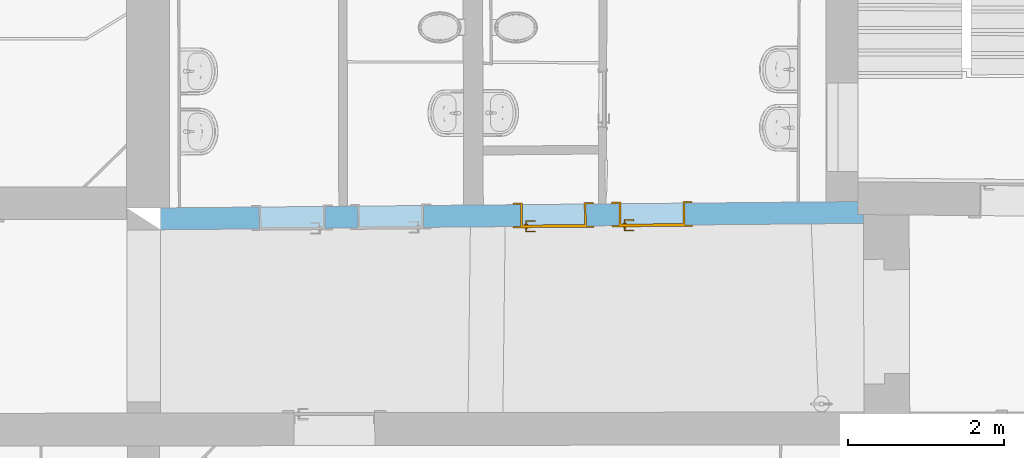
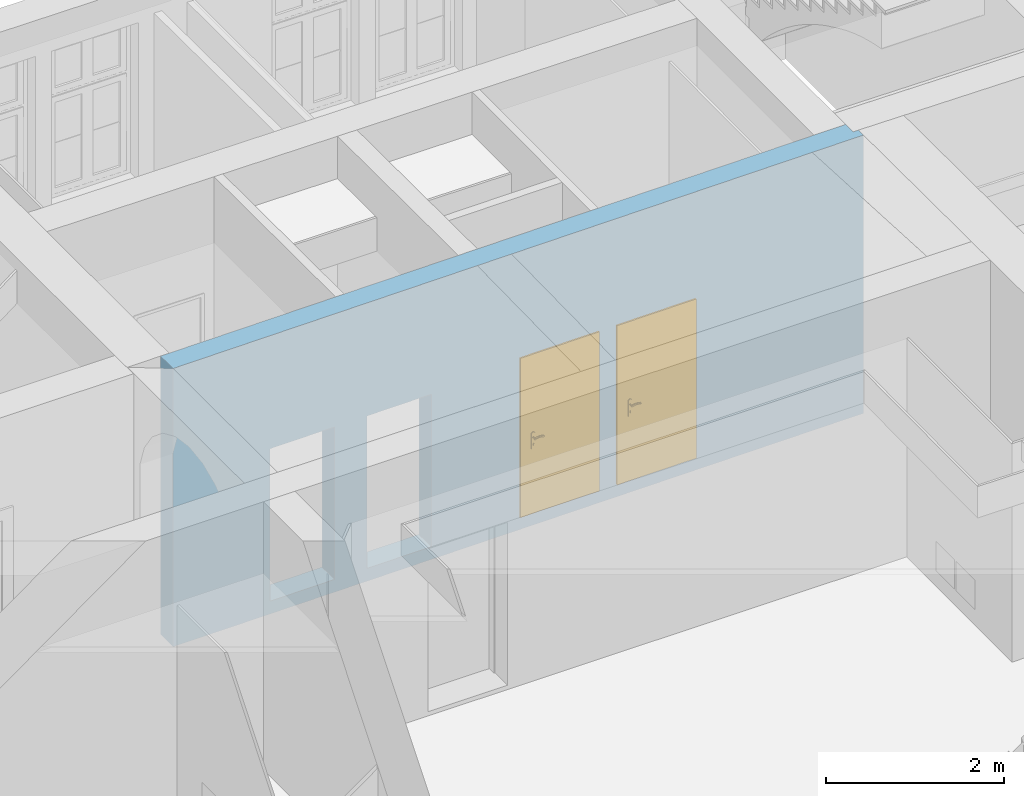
# One storey, part 65 of 158: 2 doors, 4 openings, plus 1 element that does not belong to this part.
"""IFC2X3 building model written with IfcOpenShell, lengths in metres."""

from ifc_helpers import new_model, entity, si_unit, converted_unit, derived_unit, money_unit, direction, frame, origin_with_axes, origin_2d_with_axis, place, context, subcontext, project, spatial, polyline, rectangle, outline, extrude, boolean, faceted_brep, source, transform, mapped, material, type_object, element, fill, save


model = new_model("IFC2X3")

# Units and contexts
model_context = context("Model", 3, precision=1e-05, world=origin_with_axes(), true_north=direction((0.0, 1.0)))
body_context = subcontext(model_context, "Body", "Model", "MODEL_VIEW")
ifc_project = project(units=[si_unit("LENGTHUNIT", "METRE"), si_unit("AREAUNIT", "SQUARE_METRE"), si_unit("VOLUMEUNIT", "CUBIC_METRE"), converted_unit("PLANEANGLEUNIT", "DEGREE", entity("IfcPlaneAngleMeasure", 0.0174532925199), si_unit("PLANEANGLEUNIT", "RADIAN"), dimensions=[0, 0, 0, 0, 0, 0, 0]), money_unit("EUR"), converted_unit("TIMEUNIT", "Year", entity("IfcTimeMeasure", 31556926.0), si_unit("TIMEUNIT", "SECOND"), dimensions=[0, 0, 1, 0, 0, 0, 0]), si_unit("MASSUNIT", "GRAM", prefix="KILO"), si_unit("THERMODYNAMICTEMPERATUREUNIT", "DEGREE_CELSIUS"), si_unit("LUMINOUSINTENSITYUNIT", "LUMEN"), si_unit("ENERGYUNIT", "JOULE", prefix="MEGA"), derived_unit("THERMALCONDUCTANCEUNIT", [(si_unit("POWERUNIT", "WATT"), 1), (si_unit("LENGTHUNIT", "METRE"), -1), (si_unit("THERMODYNAMICTEMPERATUREUNIT", "KELVIN"), -1)]), derived_unit("SPECIFICHEATCAPACITYUNIT", [(si_unit("ENERGYUNIT", "JOULE"), 1), (si_unit("MASSUNIT", "GRAM", prefix="KILO"), -1), (si_unit("THERMODYNAMICTEMPERATUREUNIT", "KELVIN"), -1)]), derived_unit("MASSDENSITYUNIT", [(si_unit("MASSUNIT", "GRAM", prefix="KILO"), 1), (si_unit("VOLUMEUNIT", "CUBIC_METRE"), -1)])], contexts=[model_context])

# Site, building, storey
site_placement = place(None, origin_with_axes())
site = spatial("IfcSite", under=ifc_project, at=site_placement, Name="Gelände", CompositionType="ELEMENT")
building_placement = place(site_placement, origin_with_axes())
building = spatial("IfcBuilding", under=site, at=building_placement, Name="Gebäude", CompositionType="ELEMENT")
storey_placement = place(building_placement, origin_with_axes())
storey = spatial("IfcBuildingStorey", under=building, at=storey_placement, Name="ERDGESCHOSS", CompositionType="ELEMENT", Elevation=0.0)

# Wall, openings, doors
ifc_material = material(Name="05_ALLGEMEIN - TRAGENDE BAUTEILE")
wall_type = type_object("IfcWallType", Name="05_ALLGEMEIN - TRAGENDE BAUTEILE 280", PredefinedType="ELEMENTEDWALL")
wall_placement = place(storey_placement, frame((12.5468745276, 19.1446213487, -0.21), z_axis=(0.0, 0.0, 1.0), x_axis=(0.999958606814, 0.0090986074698, 0.0)))
wall = element("IfcWall", 1, at=wall_placement, inside=storey, type_object=wall_type, material=ifc_material, Name="Wand-039", ObjectType="ELEMENTEDWALL", context=body_context, shape_type="CSG", body=[
    boolean("DIFFERENCE", boolean("DIFFERENCE", extrude(outline(polyline([(0.0, 0.0), (10.0039420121, 0.0), (10.0039420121, 0.28), (0.0, 0.28), (0.0, 0.0)])), frame((0.0, 0.0, -4.88479656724e-09), z_axis=(0.0, 0.0, 1.0), x_axis=(1.0, 0.0, 0.0)), (0.0, 0.0, 1.0), 3.81000000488), faceted_brep([(0.430900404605, 0.0, 0.0), (0.430900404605, 0.0, 3.81), (0.0, 0.0, 3.81), (0.0, 0.0, -4.88479656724e-09), (0.433312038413, 0.28, 3.81), (0.433312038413, 0.28, 0.0), (0.0, 0.28, 3.81), (0.0, 0.28, -4.88479656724e-09)], [[[0, 1, 2, 3]], [[4, 1, 0, 5]], [[1, 4, 6, 2]], [[6, 7, 3, 2]], [[5, 0, 3, 7]], [[4, 5, 7, 6]]])), faceted_brep([(9.34821729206, 0.113054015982, 3.81), (9.41806479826, 0.111830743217, 3.81), (9.41739932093, 0.0, 3.81), (10.0039420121, 0.0, 3.81), (10.0039420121, 0.28, 3.81), (9.34995403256, 0.28, 3.81), (9.34821729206, 0.113054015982, -4.88479656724e-09), (9.41806479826, 0.111830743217, -4.88479656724e-09), (9.41739932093, 0.0, 0.0), (10.0039420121, 0.0, -4.88479656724e-09), (10.0039420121, 0.28, -4.88479656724e-09), (9.34995403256, 0.28, -4.88479656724e-09)], [[[0, 1, 2, 3, 4, 5]], [[1, 0, 6, 7]], [[8, 2, 1, 7]], [[2, 8, 9, 3]], [[3, 9, 10, 4]], [[11, 5, 4, 10]], [[0, 5, 11, 6]], [[6, 11, 10, 9, 8, 7]]])),
])
opening_1_placement = place(wall_placement, frame((2.11429402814, 0.0, 0.174823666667), z_axis=(0.0, 0.0, 1.0), x_axis=(1.0, 0.0, 0.0)))
element("IfcOpeningElement", 2, at=opening_1_placement, cuts=wall, Name="Tür-022", context=body_context, shape_type="SweptSolid", body=[
    extrude(rectangle(XDim=0.840428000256, YDim=2.086604, at=origin_2d_with_axis()), frame((0.0, -0.28, 1.043302), z_axis=(0.0, 1.0, 0.0), x_axis=(-1.0, 0.0, 0.0)), (0.0, 0.0, 1.0), 0.84),
])
opening_2_placement = place(wall_placement, frame((3.37398862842, 0.0, 0.174823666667), z_axis=(0.0, 0.0, 1.0), x_axis=(1.0, 0.0, 0.0)))
element("IfcOpeningElement", 3, at=opening_2_placement, cuts=wall, Name="Tür-022", context=body_context, shape_type="SweptSolid", body=[
    extrude(rectangle(XDim=0.840428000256, YDim=2.086604, at=origin_2d_with_axis()), frame((0.0, -0.28, 1.043302), z_axis=(0.0, 1.0, 0.0), x_axis=(-1.0, 0.0, 0.0)), (0.0, 0.0, 1.0), 0.84),
])
opening_3_placement = place(wall_placement, frame((5.45457419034, 0.0, 0.174823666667), z_axis=(0.0, 0.0, 1.0), x_axis=(1.0, 0.0, 0.0)))
opening_3 = element("IfcOpeningElement", 4, at=opening_3_placement, cuts=wall, Name="Tür-022", context=body_context, shape_type="SweptSolid", body=[
    extrude(rectangle(XDim=0.840428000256, YDim=2.086604, at=origin_2d_with_axis()), frame((0.0, 0.28, 1.043302), z_axis=(0.0, 1.0, 0.0), x_axis=(1.0, 0.0, 0.0)), (0.0, 0.0, -1.0), 0.84),
])
opening_4_placement = place(wall_placement, frame((6.71486413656, 0.0, 0.174823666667), z_axis=(0.0, 0.0, 1.0), x_axis=(1.0, 0.0, 0.0)))
opening_4 = element("IfcOpeningElement", 5, at=opening_4_placement, cuts=wall, Name="Tür-022", context=body_context, shape_type="SweptSolid", body=[
    extrude(rectangle(XDim=0.840428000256, YDim=2.086604, at=origin_2d_with_axis()), frame((0.0, 0.28, 1.043302), z_axis=(0.0, 1.0, 0.0), x_axis=(1.0, 0.0, 0.0)), (0.0, 0.0, -1.0), 0.84),
])
door_style = type_object("IfcDoorStyle", Name="Blockrahmentür 1-Fl 25", ConstructionType="NOTDEFINED", OperationType="SINGLE_SWING_LEFT", ParameterTakesPrecedence=False, Sizeable=False)
shared_shape = source(origin_with_axes(), body_context, "Body", "Brep", [
    faceted_brep([(-0.420214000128, -0.3, 0.0), (-0.420214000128, -0.3, 2.086604), (-0.420214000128, -0.02, 2.086604), (-0.420214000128, -0.02, 0.0), (-0.395214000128, -0.3, 0.0), (-0.395214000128, -0.3, 2.061604), (-0.1151, -0.3, 2.061604), (-0.0001, -0.3, 2.061604), (0.395214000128, -0.3, 2.061604), (0.395214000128, -0.3, 0.0), (0.420214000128, -0.3, 0.0), (0.420214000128, -0.3, 2.086604), (0.420214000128, -0.02, 2.086604), (0.420214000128, -0.02, 0.0), (0.395214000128, -0.02, 0.0), (0.395214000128, -0.02, 2.061604), (-0.0001, -0.02, 2.061604), (-0.1151, -0.02, 2.061604), (-0.395214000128, -0.02, 2.061604), (-0.395214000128, -0.02, 0.0)], [[[0, 1, 2, 3]], [[0, 4, 5, 6, 7, 8, 9, 10, 11, 1]], [[1, 11, 12, 2]], [[3, 2, 12, 13, 14, 15, 16, 17, 18, 19]], [[4, 0, 3, 19]], [[5, 4, 19, 18]], [[6, 5, 18, 17]], [[7, 6, 17, 16]], [[8, 7, 16, 15]], [[9, 8, 15, 14]], [[10, 9, 14, 13]], [[11, 10, 13, 12]]]),
    faceted_brep([(-0.420214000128, -0.02, 0.0), (-0.420214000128, -0.02, 2.086604), (-0.420214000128, 0.02, 2.086604), (-0.420214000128, 0.02, 0.0), (-0.410214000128, -0.02, 0.0), (-0.410214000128, -0.02, 2.076604), (-0.1001, -0.02, 2.076604), (-0.0151, -0.02, 2.076604), (0.410214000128, -0.02, 2.076604), (0.410214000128, -0.02, 0.0), (0.420214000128, -0.02, 0.0), (0.420214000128, -0.02, 2.086604), (0.420214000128, 0.02, 2.086604), (0.420214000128, 0.02, 0.0), (0.410214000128, 0.02, 0.0), (0.410214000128, 0.02, 2.076604), (-0.0151, 0.02, 2.076604), (-0.1001, 0.02, 2.076604), (-0.410214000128, 0.02, 2.076604), (-0.410214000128, 0.02, 0.0)], [[[0, 1, 2, 3]], [[0, 4, 5, 6, 7, 8, 9, 10, 11, 1]], [[1, 11, 12, 2]], [[3, 2, 12, 13, 14, 15, 16, 17, 18, 19]], [[4, 0, 3, 19]], [[5, 4, 19, 18]], [[6, 5, 18, 17]], [[7, 6, 17, 16]], [[8, 7, 16, 15]], [[9, 8, 15, 14]], [[10, 9, 14, 13]], [[11, 10, 13, 12]]]),
    faceted_brep([(-0.515214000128, -0.3, 0.0), (-0.515214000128, -0.3, 2.181604), (-0.515214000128, -0.28, 2.181604), (-0.515214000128, -0.28, 0.0), (-0.420214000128, -0.3, 0.0), (-0.420214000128, -0.3, 2.086604), (0.420214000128, -0.3, 2.086604), (0.420214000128, -0.3, 0.0), (0.515214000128, -0.3, 0.0), (0.515214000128, -0.3, 2.181604), (0.515214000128, -0.28, 2.181604), (0.515214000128, -0.28, 0.0), (0.420214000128, -0.28, 0.0), (0.420214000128, -0.28, 2.086604), (-0.420214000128, -0.28, 2.086604), (-0.420214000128, -0.28, 0.0)], [[[0, 1, 2, 3]], [[0, 4, 5, 6, 7, 8, 9, 1]], [[1, 9, 10, 2]], [[3, 2, 10, 11, 12, 13, 14, 15]], [[4, 0, 3, 15]], [[5, 4, 15, 14]], [[6, 5, 14, 13]], [[7, 6, 13, 12]], [[8, 7, 12, 11]], [[9, 8, 11, 10]]]),
    faceted_brep([(-0.515214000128, 0.0, 0.0), (-0.515214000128, 0.0, 2.181604), (-0.515214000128, 0.02, 2.181604), (-0.515214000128, 0.02, 0.0), (-0.420214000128, 0.0, 0.0), (-0.420214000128, 0.0, 2.086604), (0.420214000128, 0.0, 2.086604), (0.420214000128, 0.0, 0.0), (0.515214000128, 0.0, 0.0), (0.515214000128, 0.0, 2.181604), (0.515214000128, 0.02, 2.181604), (0.515214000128, 0.02, 0.0), (0.420214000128, 0.02, 0.0), (0.420214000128, 0.02, 2.086604), (-0.420214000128, 0.02, 2.086604), (-0.420214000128, 0.02, 0.0)], [[[0, 1, 2, 3]], [[0, 4, 5, 6, 7, 8, 9, 1]], [[1, 9, 10, 2]], [[3, 2, 10, 11, 12, 13, 14, 15]], [[4, 0, 3, 15]], [[5, 4, 15, 14]], [[6, 5, 14, 13]], [[7, 6, 13, 12]], [[8, 7, 12, 11]], [[9, 8, 11, 10]]]),
    faceted_brep([(-0.410214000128, 0.017, 0.0), (-0.410214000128, 0.017, 2.076604), (0.410214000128, 0.017, 2.076604), (0.410214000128, 0.017, 0.0), (-0.410214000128, -0.02, 0.0), (-0.410214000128, -0.02, 2.076604), (0.410214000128, -0.02, 2.076604), (0.410214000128, -0.02, 0.0)], [[[0, 1, 2, 3]], [[0, 4, 5, 1]], [[1, 5, 6, 2]], [[2, 6, 7, 3]], [[3, 7, 4, 0]], [[7, 6, 5, 4]]]),
    faceted_brep([(0.354916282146, -0.06, 1.05647213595), (0.354916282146, -0.04, 1.05647213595), (0.350214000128, -0.04, 1.058), (0.350214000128, -0.06, 1.058), (0.357822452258, -0.06, 1.05247213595), (0.357822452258, -0.04, 1.05247213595), (0.356091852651, -0.038, 1.05809016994), (0.350214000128, -0.038, 1.06), (0.34551171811, -0.04, 1.05647213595), (0.34551171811, -0.06, 1.05647213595), (0.342605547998, -0.06, 1.05247213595), (0.342605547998, -0.06, 1.04752786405), (0.34551171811, -0.06, 1.04352786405), (0.350214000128, -0.06, 1.042), (0.354916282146, -0.06, 1.04352786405), (0.357822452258, -0.06, 1.04752786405), (0.357822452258, -0.04, 1.04752786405), (0.359724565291, -0.038, 1.05309016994), (0.356091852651, -0.03, 1.05809016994), (0.350214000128, -0.03, 1.06), (0.344336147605, -0.038, 1.05809016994), (0.342605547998, -0.04, 1.05247213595), (0.342605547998, -0.04, 1.04752786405), (0.34551171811, -0.04, 1.04352786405), (0.350214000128, -0.04, 1.042), (0.354916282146, -0.04, 1.04352786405), (0.359724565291, -0.038, 1.04690983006), (0.359724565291, -0.03, 1.05309016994), (0.359724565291, -0.03, 1.04690983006), (0.356091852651, -0.03, 1.04190983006), (0.350214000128, -0.03, 1.04), (0.344336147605, -0.03, 1.04190983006), (0.340703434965, -0.03, 1.04690983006), (0.340703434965, -0.03, 1.05309016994), (0.344336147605, -0.03, 1.05809016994), (0.340703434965, -0.038, 1.05309016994), (0.340703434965, -0.038, 1.04690983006), (0.344336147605, -0.038, 1.04190983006), (0.350214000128, -0.038, 1.04), (0.356091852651, -0.038, 1.04190983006)], [[[0, 1, 2, 3]], [[4, 5, 1, 0]], [[1, 6, 7, 2]], [[3, 2, 8, 9]], [[3, 9, 10, 11, 12, 13, 14, 15, 4, 0]], [[15, 16, 5, 4]], [[5, 17, 6, 1]], [[6, 18, 19, 7]], [[2, 7, 20, 8]], [[9, 8, 21, 10]], [[10, 21, 22, 11]], [[11, 22, 23, 12]], [[12, 23, 24, 13]], [[13, 24, 25, 14]], [[14, 25, 16, 15]], [[16, 26, 17, 5]], [[17, 27, 18, 6]], [[19, 18, 27, 28, 29, 30, 31, 32, 33, 34]], [[7, 19, 34, 20]], [[8, 20, 35, 21]], [[21, 35, 36, 22]], [[22, 36, 37, 23]], [[23, 37, 38, 24]], [[24, 38, 39, 25]], [[25, 39, 26, 16]], [[26, 28, 27, 17]], [[39, 29, 28, 26]], [[38, 30, 29, 39]], [[37, 31, 30, 38]], [[36, 32, 31, 37]], [[35, 33, 32, 36]], [[20, 34, 33, 35]]]),
    faceted_brep([(0.338025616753, -0.03, 1.11759695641), (0.333414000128, -0.03, 1.11), (0.327714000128, -0.03, 1.11), (0.327714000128, -0.03, 0.89), (0.333414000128, -0.03, 0.89), (0.338025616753, -0.03, 0.882403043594), (0.345770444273, -0.03, 0.878044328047), (0.354657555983, -0.03, 0.878044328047), (0.362402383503, -0.03, 0.882403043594), (0.367014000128, -0.03, 0.89), (0.372714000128, -0.03, 0.89), (0.372714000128, -0.03, 1.11), (0.367014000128, -0.03, 1.11), (0.362402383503, -0.03, 1.11759695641), (0.354657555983, -0.03, 1.12195567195), (0.345770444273, -0.03, 1.12195567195), (0.350214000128, -0.03, 0.967425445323), (0.355589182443, -0.03, 0.965143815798), (0.357681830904, -0.03, 0.959692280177), (0.355214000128, -0.03, 0.9544), (0.355214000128, -0.03, 0.9375), (0.353749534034, -0.03, 0.933964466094), (0.350214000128, -0.03, 0.9325), (0.346678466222, -0.03, 0.933964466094), (0.345214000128, -0.03, 0.9375), (0.345214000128, -0.03, 0.9544), (0.342746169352, -0.03, 0.959692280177), (0.344838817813, -0.03, 0.965143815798), (0.338025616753, -0.02, 1.11759695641), (0.333414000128, -0.02, 1.11), (0.327714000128, -0.02, 1.11), (0.327714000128, -0.02, 0.89), (0.333414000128, -0.02, 0.89), (0.338025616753, -0.02, 0.882403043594), (0.345770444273, -0.02, 0.878044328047), (0.354657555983, -0.02, 0.878044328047), (0.362402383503, -0.02, 0.882403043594), (0.367014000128, -0.02, 0.89), (0.372714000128, -0.02, 0.89), (0.372714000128, -0.02, 1.11), (0.367014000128, -0.02, 1.11), (0.362402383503, -0.02, 1.11759695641), (0.354657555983, -0.02, 1.12195567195), (0.345770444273, -0.02, 1.12195567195), (0.350214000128, -0.02, 0.967425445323), (0.355589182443, -0.02, 0.965143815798), (0.357681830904, -0.02, 0.959692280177), (0.355214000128, -0.02, 0.9544), (0.355214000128, -0.02, 0.9375), (0.353749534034, -0.02, 0.933964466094), (0.350214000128, -0.02, 0.9325), (0.346678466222, -0.02, 0.933964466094), (0.345214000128, -0.02, 0.9375), (0.345214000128, -0.02, 0.9544), (0.342746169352, -0.02, 0.959692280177), (0.344838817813, -0.02, 0.965143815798)], [[[0, 1, 2, 3, 4, 5, 6, 7, 8, 9, 10, 11, 12, 13, 14, 15], [16, 17, 18, 19, 20, 21, 22, 23, 24, 25, 26, 27]], [[0, 28, 29, 1]], [[1, 29, 30, 2]], [[2, 30, 31, 3]], [[3, 31, 32, 4]], [[4, 32, 33, 5]], [[5, 33, 34, 6]], [[6, 34, 35, 7]], [[7, 35, 36, 8]], [[8, 36, 37, 9]], [[9, 37, 38, 10]], [[10, 38, 39, 11]], [[11, 39, 40, 12]], [[12, 40, 41, 13]], [[13, 41, 42, 14]], [[14, 42, 43, 15]], [[15, 43, 28, 0]], [[16, 44, 45, 17]], [[17, 45, 46, 18]], [[18, 46, 47, 19]], [[47, 48, 20, 19]], [[21, 20, 48, 49]], [[22, 21, 49, 50]], [[23, 22, 50, 51]], [[24, 23, 51, 52]], [[25, 24, 52, 53]], [[25, 53, 54, 26]], [[26, 54, 55, 27]], [[27, 55, 44, 16]], [[32, 31, 30, 29, 28, 43, 42, 41, 40, 39, 38, 37, 36, 35, 34, 33], [46, 45, 44, 55, 54, 53, 52, 51, 50, 49, 48, 47]]]),
    faceted_brep([(0.235961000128, -0.06, 1.057158), (0.235959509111, -0.06, 1.05719388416), (0.235959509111, -0.075, 1.05719388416), (0.235961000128, -0.075, 1.057158), (0.262988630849, -0.06, 1.06432652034), (0.290816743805, -0.06, 1.06706086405), (0.318722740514, -0.06, 1.06529002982), (0.345982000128, -0.06, 1.05906), (0.352384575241, -0.06, 1.05976125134), (0.357886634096, -0.06, 1.05641280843), (0.360205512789, -0.06, 1.05040385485), (0.35837916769, -0.06, 1.04422735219), (0.353165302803, -0.06, 1.04044577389), (0.346727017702, -0.06, 1.04062800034), (0.341735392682, -0.06, 1.04469843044), (0.341756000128, -0.06, 1.044666), (0.316467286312, -0.06, 1.05019878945), (0.290624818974, -0.06, 1.05171460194), (0.26486268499, -0.06, 1.04917624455), (0.239813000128, -0.06, 1.042646), (0.234269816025, -0.06, 1.04356849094), (0.230908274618, -0.06, 1.04807159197), (0.231599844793, -0.06, 1.05364829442), (0.231599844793, -0.075, 1.05364829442), (0.230908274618, -0.075, 1.04807159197), (0.234269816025, -0.075, 1.04356849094), (0.239813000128, -0.075, 1.042646), (0.26486268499, -0.075, 1.04917624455), (0.290624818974, -0.075, 1.05171460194), (0.316467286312, -0.075, 1.05019878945), (0.341756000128, -0.075, 1.044666), (0.341735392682, -0.075, 1.04469843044), (0.346727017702, -0.075, 1.04062800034), (0.353165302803, -0.075, 1.04044577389), (0.35837916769, -0.075, 1.04422735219), (0.360205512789, -0.075, 1.05040385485), (0.357886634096, -0.075, 1.05641280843), (0.352384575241, -0.075, 1.05976125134), (0.345982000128, -0.075, 1.05906), (0.318722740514, -0.075, 1.06529002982), (0.290816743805, -0.075, 1.06706086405), (0.262988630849, -0.075, 1.06432652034)], [[[0, 1, 2, 3]], [[0, 4, 5, 6, 7, 8, 9, 10, 11, 12, 13, 14, 15, 16, 17, 18, 19, 20, 21, 22, 1]], [[1, 22, 23, 2]], [[3, 2, 23, 24, 25, 26, 27, 28, 29, 30, 31, 32, 33, 34, 35, 36, 37, 38, 39, 40, 41]], [[4, 0, 3, 41]], [[5, 4, 41, 40]], [[6, 5, 40, 39]], [[7, 6, 39, 38]], [[8, 7, 38, 37]], [[9, 8, 37, 36]], [[10, 9, 36, 35]], [[11, 10, 35, 34]], [[12, 11, 34, 33]], [[13, 12, 33, 32]], [[14, 13, 32, 31]], [[15, 14, 31, 30]], [[16, 15, 30, 29]], [[17, 16, 29, 28]], [[18, 17, 28, 27]], [[19, 18, 27, 26]], [[20, 19, 26, 25]], [[21, 20, 25, 24]], [[22, 21, 24, 23]]]),
    faceted_brep([(0.354916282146, 0.057, 1.05647213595), (0.350214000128, 0.057, 1.058), (0.350214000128, 0.037, 1.058), (0.354916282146, 0.037, 1.05647213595), (0.357822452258, 0.057, 1.05247213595), (0.357822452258, 0.057, 1.04752786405), (0.354916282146, 0.057, 1.04352786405), (0.350214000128, 0.057, 1.042), (0.34551171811, 0.057, 1.04352786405), (0.342605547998, 0.057, 1.04752786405), (0.342605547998, 0.057, 1.05247213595), (0.34551171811, 0.057, 1.05647213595), (0.34551171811, 0.037, 1.05647213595), (0.350214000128, 0.035, 1.06), (0.356091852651, 0.035, 1.05809016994), (0.357822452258, 0.037, 1.05247213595), (0.357822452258, 0.037, 1.04752786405), (0.354916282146, 0.037, 1.04352786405), (0.350214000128, 0.037, 1.042), (0.34551171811, 0.037, 1.04352786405), (0.342605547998, 0.037, 1.04752786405), (0.342605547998, 0.037, 1.05247213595), (0.344336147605, 0.035, 1.05809016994), (0.350214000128, 0.027, 1.06), (0.356091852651, 0.027, 1.05809016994), (0.359724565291, 0.035, 1.05309016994), (0.359724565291, 0.035, 1.04690983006), (0.356091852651, 0.035, 1.04190983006), (0.350214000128, 0.035, 1.04), (0.344336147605, 0.035, 1.04190983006), (0.340703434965, 0.035, 1.04690983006), (0.340703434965, 0.035, 1.05309016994), (0.344336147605, 0.027, 1.05809016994), (0.340703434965, 0.027, 1.05309016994), (0.340703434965, 0.027, 1.04690983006), (0.344336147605, 0.027, 1.04190983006), (0.350214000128, 0.027, 1.04), (0.356091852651, 0.027, 1.04190983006), (0.359724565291, 0.027, 1.04690983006), (0.359724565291, 0.027, 1.05309016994)], [[[0, 1, 2, 3]], [[1, 0, 4, 5, 6, 7, 8, 9, 10, 11]], [[1, 11, 12, 2]], [[3, 2, 13, 14]], [[4, 0, 3, 15]], [[5, 4, 15, 16]], [[6, 5, 16, 17]], [[7, 6, 17, 18]], [[8, 7, 18, 19]], [[9, 8, 19, 20]], [[10, 9, 20, 21]], [[11, 10, 21, 12]], [[2, 12, 22, 13]], [[14, 13, 23, 24]], [[15, 3, 14, 25]], [[16, 15, 25, 26]], [[17, 16, 26, 27]], [[18, 17, 27, 28]], [[19, 18, 28, 29]], [[20, 19, 29, 30]], [[21, 20, 30, 31]], [[12, 21, 31, 22]], [[13, 22, 32, 23]], [[23, 32, 33, 34, 35, 36, 37, 38, 39, 24]], [[25, 14, 24, 39]], [[26, 25, 39, 38]], [[27, 26, 38, 37]], [[28, 27, 37, 36]], [[29, 28, 36, 35]], [[30, 29, 35, 34]], [[31, 30, 34, 33]], [[22, 31, 33, 32]]]),
    faceted_brep([(0.338025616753, 0.017, 1.11759695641), (0.333414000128, 0.017, 1.11), (0.327714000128, 0.017, 1.11), (0.327714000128, 0.017, 0.89), (0.333414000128, 0.017, 0.89), (0.338025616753, 0.017, 0.882403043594), (0.345770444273, 0.017, 0.878044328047), (0.354657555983, 0.017, 0.878044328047), (0.362402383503, 0.017, 0.882403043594), (0.367014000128, 0.017, 0.89), (0.372714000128, 0.017, 0.89), (0.372714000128, 0.017, 1.11), (0.367014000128, 0.017, 1.11), (0.362402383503, 0.017, 1.11759695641), (0.354657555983, 0.017, 1.12195567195), (0.345770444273, 0.017, 1.12195567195), (0.350214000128, 0.017, 0.967425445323), (0.355589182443, 0.017, 0.965143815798), (0.357681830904, 0.017, 0.959692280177), (0.355214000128, 0.017, 0.9544), (0.355214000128, 0.017, 0.9375), (0.353749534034, 0.017, 0.933964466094), (0.350214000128, 0.017, 0.9325), (0.346678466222, 0.017, 0.933964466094), (0.345214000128, 0.017, 0.9375), (0.345214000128, 0.017, 0.9544), (0.342746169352, 0.017, 0.959692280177), (0.344838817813, 0.017, 0.965143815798), (0.338025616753, 0.027, 1.11759695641), (0.333414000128, 0.027, 1.11), (0.327714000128, 0.027, 1.11), (0.327714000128, 0.027, 0.89), (0.333414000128, 0.027, 0.89), (0.338025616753, 0.027, 0.882403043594), (0.345770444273, 0.027, 0.878044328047), (0.354657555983, 0.027, 0.878044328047), (0.362402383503, 0.027, 0.882403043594), (0.367014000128, 0.027, 0.89), (0.372714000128, 0.027, 0.89), (0.372714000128, 0.027, 1.11), (0.367014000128, 0.027, 1.11), (0.362402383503, 0.027, 1.11759695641), (0.354657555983, 0.027, 1.12195567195), (0.345770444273, 0.027, 1.12195567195), (0.350214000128, 0.027, 0.967425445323), (0.355589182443, 0.027, 0.965143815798), (0.357681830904, 0.027, 0.959692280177), (0.355214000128, 0.027, 0.9544), (0.355214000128, 0.027, 0.9375), (0.353749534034, 0.027, 0.933964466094), (0.350214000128, 0.027, 0.9325), (0.346678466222, 0.027, 0.933964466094), (0.345214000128, 0.027, 0.9375), (0.345214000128, 0.027, 0.9544), (0.342746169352, 0.027, 0.959692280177), (0.344838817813, 0.027, 0.965143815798)], [[[0, 1, 2, 3, 4, 5, 6, 7, 8, 9, 10, 11, 12, 13, 14, 15], [16, 17, 18, 19, 20, 21, 22, 23, 24, 25, 26, 27]], [[28, 29, 1, 0]], [[29, 30, 2, 1]], [[30, 31, 3, 2]], [[31, 32, 4, 3]], [[32, 33, 5, 4]], [[33, 34, 6, 5]], [[34, 35, 7, 6]], [[35, 36, 8, 7]], [[36, 37, 9, 8]], [[37, 38, 10, 9]], [[38, 39, 11, 10]], [[39, 40, 12, 11]], [[40, 41, 13, 12]], [[41, 42, 14, 13]], [[42, 43, 15, 14]], [[43, 28, 0, 15]], [[16, 44, 45, 17]], [[17, 45, 46, 18]], [[18, 46, 47, 19]], [[47, 48, 20, 19]], [[21, 20, 48, 49]], [[22, 21, 49, 50]], [[23, 22, 50, 51]], [[24, 23, 51, 52]], [[25, 24, 52, 53]], [[25, 53, 54, 26]], [[26, 54, 55, 27]], [[27, 55, 44, 16]], [[32, 31, 30, 29, 28, 43, 42, 41, 40, 39, 38, 37, 36, 35, 34, 33], [46, 45, 44, 55, 54, 53, 52, 51, 50, 49, 48, 47]]]),
    faceted_brep([(0.235961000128, 0.057, 1.057158), (0.235961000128, 0.072, 1.057158), (0.235959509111, 0.072, 1.05719388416), (0.235959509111, 0.057, 1.05719388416), (0.262988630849, 0.057, 1.06432652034), (0.262988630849, 0.072, 1.06432652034), (0.290816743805, 0.072, 1.06706086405), (0.318722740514, 0.072, 1.06529002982), (0.345982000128, 0.072, 1.05906), (0.352384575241, 0.072, 1.05976125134), (0.357886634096, 0.072, 1.05641280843), (0.360205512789, 0.072, 1.05040385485), (0.35837916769, 0.072, 1.04422735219), (0.353165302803, 0.072, 1.04044577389), (0.346727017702, 0.072, 1.04062800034), (0.341735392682, 0.072, 1.04469843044), (0.341756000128, 0.072, 1.044666), (0.316467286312, 0.072, 1.05019878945), (0.290624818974, 0.072, 1.05171460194), (0.26486268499, 0.072, 1.04917624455), (0.239813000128, 0.072, 1.042646), (0.234269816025, 0.072, 1.04356849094), (0.230908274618, 0.072, 1.04807159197), (0.231599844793, 0.072, 1.05364829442), (0.231599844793, 0.057, 1.05364829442), (0.230908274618, 0.057, 1.04807159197), (0.234269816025, 0.057, 1.04356849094), (0.239813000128, 0.057, 1.042646), (0.26486268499, 0.057, 1.04917624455), (0.290624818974, 0.057, 1.05171460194), (0.316467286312, 0.057, 1.05019878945), (0.341756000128, 0.057, 1.044666), (0.341735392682, 0.057, 1.04469843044), (0.346727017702, 0.057, 1.04062800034), (0.353165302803, 0.057, 1.04044577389), (0.35837916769, 0.057, 1.04422735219), (0.360205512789, 0.057, 1.05040385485), (0.357886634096, 0.057, 1.05641280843), (0.352384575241, 0.057, 1.05976125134), (0.345982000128, 0.057, 1.05906), (0.318722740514, 0.057, 1.06529002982), (0.290816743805, 0.057, 1.06706086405)], [[[0, 1, 2, 3]], [[4, 5, 1, 0]], [[1, 5, 6, 7, 8, 9, 10, 11, 12, 13, 14, 15, 16, 17, 18, 19, 20, 21, 22, 23, 2]], [[3, 2, 23, 24]], [[0, 3, 24, 25, 26, 27, 28, 29, 30, 31, 32, 33, 34, 35, 36, 37, 38, 39, 40, 41, 4]], [[41, 6, 5, 4]], [[40, 7, 6, 41]], [[39, 8, 7, 40]], [[38, 9, 8, 39]], [[37, 10, 9, 38]], [[36, 11, 10, 37]], [[35, 12, 11, 36]], [[34, 13, 12, 35]], [[33, 14, 13, 34]], [[32, 15, 14, 33]], [[31, 16, 15, 32]], [[30, 17, 16, 31]], [[29, 18, 17, 30]], [[28, 19, 18, 29]], [[27, 20, 19, 28]], [[26, 21, 20, 27]], [[25, 22, 21, 26]], [[24, 23, 22, 25]]]),
])
door_1_placement = place(opening_3_placement, frame((0.395214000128, 0.0, 0.0), z_axis=(0.0, 0.0, 1.0), x_axis=(-1.0, 0.0, 0.0)))
door_1 = element("IfcDoor", 6, at=door_1_placement, inside=storey, type_object=door_style, Name="Tür-022", ObjectType="NOTDEFINED", OverallHeight=2.0866, OverallWidth=0.840428, context=body_context, shape_type="MappedRepresentation", body=[
    mapped(shared_shape, transform((0.395214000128, 0.0, 0.0))),
])
fill(opening_3, door_1)
door_2_placement = place(opening_4_placement, frame((0.395214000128, 0.0, 0.0), z_axis=(0.0, 0.0, 1.0), x_axis=(-1.0, 0.0, 0.0)))
door_2 = element("IfcDoor", 7, at=door_2_placement, inside=storey, type_object=door_style, Name="Tür-022", ObjectType="NOTDEFINED", OverallHeight=2.0866, OverallWidth=0.840428, context=body_context, shape_type="MappedRepresentation", body=[
    mapped(shared_shape, transform((0.395214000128, 0.0, 0.0))),
])
fill(opening_4, door_2)

save(model, "model.ifc")
